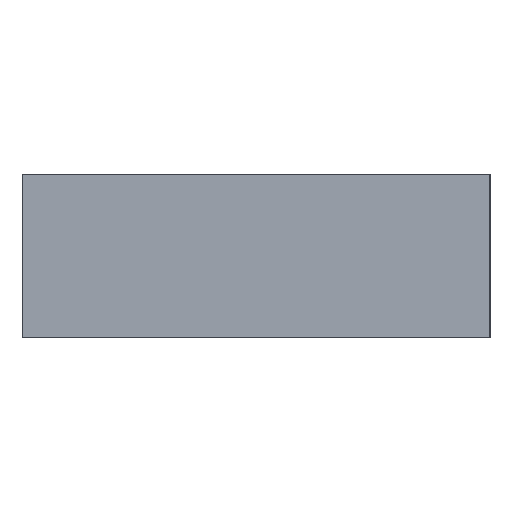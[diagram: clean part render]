
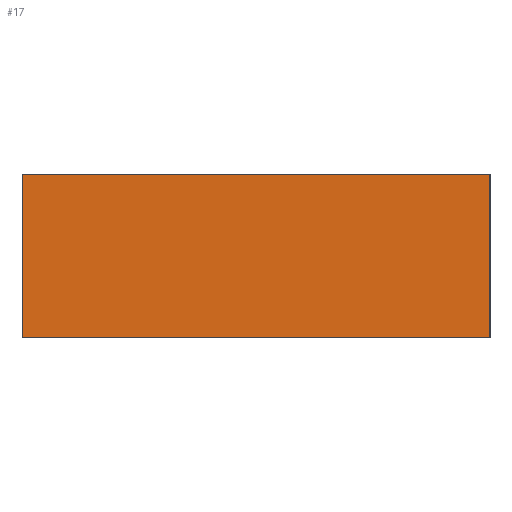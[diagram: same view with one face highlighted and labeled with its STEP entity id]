
A CAD part, left-side view. The second image highlights one B-rep face of the part: STEP entity #17.
In plain terms, the highlighted planar face has unit normal (-1, 0, 0).
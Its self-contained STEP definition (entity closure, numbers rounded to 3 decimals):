
#17 = ADVANCED_FACE('',(#18),#32,.F.);
#18 = FACE_BOUND('',#19,.F.);
#19 = EDGE_LOOP('',(#20,#55,#83,#111));
#20 = ORIENTED_EDGE('',*,*,#21,.F.);
#21 = EDGE_CURVE('',#22,#24,#26,.T.);
#22 = VERTEX_POINT('',#23);
#23 = CARTESIAN_POINT('',(-163.,-3.,606.));
#24 = VERTEX_POINT('',#25);
#25 = CARTESIAN_POINT('',(-163.,-3.,706.));
#26 = SURFACE_CURVE('',#27,(#31,#43),.PCURVE_S1.);
#27 = LINE('',#28,#29);
#28 = CARTESIAN_POINT('',(-163.,-3.,606.));
#29 = VECTOR('',#30,1.);
#30 = DIRECTION('',(0.,0.,1.));
#31 = PCURVE('',#32,#37);
#32 = PLANE('',#33);
#33 = AXIS2_PLACEMENT_3D('',#34,#35,#36);
#34 = CARTESIAN_POINT('',(-163.,-3.,606.));
#35 = DIRECTION('',(1.,0.,0.));
#36 = DIRECTION('',(0.,0.,1.));
#37 = DEFINITIONAL_REPRESENTATION('',(#38),#42);
#38 = LINE('',#39,#40);
#39 = CARTESIAN_POINT('',(0.,0.));
#40 = VECTOR('',#41,1.);
#41 = DIRECTION('',(1.,0.));
#42 = ( GEOMETRIC_REPRESENTATION_CONTEXT(2) 
PARAMETRIC_REPRESENTATION_CONTEXT() REPRESENTATION_CONTEXT('2D SPACE',''
  ) );
#43 = PCURVE('',#44,#49);
#44 = PLANE('',#45);
#45 = AXIS2_PLACEMENT_3D('',#46,#47,#48);
#46 = CARTESIAN_POINT('',(-163.,-3.,606.));
#47 = DIRECTION('',(0.,1.,0.));
#48 = DIRECTION('',(0.,0.,1.));
#49 = DEFINITIONAL_REPRESENTATION('',(#50),#54);
#50 = LINE('',#51,#52);
#51 = CARTESIAN_POINT('',(0.,0.));
#52 = VECTOR('',#53,1.);
#53 = DIRECTION('',(1.,0.));
#54 = ( GEOMETRIC_REPRESENTATION_CONTEXT(2) 
PARAMETRIC_REPRESENTATION_CONTEXT() REPRESENTATION_CONTEXT('2D SPACE',''
  ) );
#55 = ORIENTED_EDGE('',*,*,#56,.T.);
#56 = EDGE_CURVE('',#22,#57,#59,.T.);
#57 = VERTEX_POINT('',#58);
#58 = CARTESIAN_POINT('',(-163.,283.,606.));
#59 = SURFACE_CURVE('',#60,(#64,#71),.PCURVE_S1.);
#60 = LINE('',#61,#62);
#61 = CARTESIAN_POINT('',(-163.,-3.,606.));
#62 = VECTOR('',#63,1.);
#63 = DIRECTION('',(0.,1.,0.));
#64 = PCURVE('',#32,#65);
#65 = DEFINITIONAL_REPRESENTATION('',(#66),#70);
#66 = LINE('',#67,#68);
#67 = CARTESIAN_POINT('',(0.,0.));
#68 = VECTOR('',#69,1.);
#69 = DIRECTION('',(0.,-1.));
#70 = ( GEOMETRIC_REPRESENTATION_CONTEXT(2) 
PARAMETRIC_REPRESENTATION_CONTEXT() REPRESENTATION_CONTEXT('2D SPACE',''
  ) );
#71 = PCURVE('',#72,#77);
#72 = PLANE('',#73);
#73 = AXIS2_PLACEMENT_3D('',#74,#75,#76);
#74 = CARTESIAN_POINT('',(-163.,-3.,606.));
#75 = DIRECTION('',(0.,0.,1.));
#76 = DIRECTION('',(1.,0.,0.));
#77 = DEFINITIONAL_REPRESENTATION('',(#78),#82);
#78 = LINE('',#79,#80);
#79 = CARTESIAN_POINT('',(0.,0.));
#80 = VECTOR('',#81,1.);
#81 = DIRECTION('',(0.,1.));
#82 = ( GEOMETRIC_REPRESENTATION_CONTEXT(2) 
PARAMETRIC_REPRESENTATION_CONTEXT() REPRESENTATION_CONTEXT('2D SPACE',''
  ) );
#83 = ORIENTED_EDGE('',*,*,#84,.T.);
#84 = EDGE_CURVE('',#57,#85,#87,.T.);
#85 = VERTEX_POINT('',#86);
#86 = CARTESIAN_POINT('',(-163.,283.,706.));
#87 = SURFACE_CURVE('',#88,(#92,#99),.PCURVE_S1.);
#88 = LINE('',#89,#90);
#89 = CARTESIAN_POINT('',(-163.,283.,606.));
#90 = VECTOR('',#91,1.);
#91 = DIRECTION('',(0.,0.,1.));
#92 = PCURVE('',#32,#93);
#93 = DEFINITIONAL_REPRESENTATION('',(#94),#98);
#94 = LINE('',#95,#96);
#95 = CARTESIAN_POINT('',(0.,-286.));
#96 = VECTOR('',#97,1.);
#97 = DIRECTION('',(1.,0.));
#98 = ( GEOMETRIC_REPRESENTATION_CONTEXT(2) 
PARAMETRIC_REPRESENTATION_CONTEXT() REPRESENTATION_CONTEXT('2D SPACE',''
  ) );
#99 = PCURVE('',#100,#105);
#100 = PLANE('',#101);
#101 = AXIS2_PLACEMENT_3D('',#102,#103,#104);
#102 = CARTESIAN_POINT('',(-163.,283.,606.));
#103 = DIRECTION('',(0.,1.,0.));
#104 = DIRECTION('',(0.,0.,1.));
#105 = DEFINITIONAL_REPRESENTATION('',(#106),#110);
#106 = LINE('',#107,#108);
#107 = CARTESIAN_POINT('',(0.,0.));
#108 = VECTOR('',#109,1.);
#109 = DIRECTION('',(1.,0.));
#110 = ( GEOMETRIC_REPRESENTATION_CONTEXT(2) 
PARAMETRIC_REPRESENTATION_CONTEXT() REPRESENTATION_CONTEXT('2D SPACE',''
  ) );
#111 = ORIENTED_EDGE('',*,*,#112,.F.);
#112 = EDGE_CURVE('',#24,#85,#113,.T.);
#113 = SURFACE_CURVE('',#114,(#118,#125),.PCURVE_S1.);
#114 = LINE('',#115,#116);
#115 = CARTESIAN_POINT('',(-163.,-3.,706.));
#116 = VECTOR('',#117,1.);
#117 = DIRECTION('',(0.,1.,0.));
#118 = PCURVE('',#32,#119);
#119 = DEFINITIONAL_REPRESENTATION('',(#120),#124);
#120 = LINE('',#121,#122);
#121 = CARTESIAN_POINT('',(100.,0.));
#122 = VECTOR('',#123,1.);
#123 = DIRECTION('',(0.,-1.));
#124 = ( GEOMETRIC_REPRESENTATION_CONTEXT(2) 
PARAMETRIC_REPRESENTATION_CONTEXT() REPRESENTATION_CONTEXT('2D SPACE',''
  ) );
#125 = PCURVE('',#126,#131);
#126 = PLANE('',#127);
#127 = AXIS2_PLACEMENT_3D('',#128,#129,#130);
#128 = CARTESIAN_POINT('',(-163.,-3.,706.));
#129 = DIRECTION('',(0.,0.,1.));
#130 = DIRECTION('',(1.,0.,0.));
#131 = DEFINITIONAL_REPRESENTATION('',(#132),#136);
#132 = LINE('',#133,#134);
#133 = CARTESIAN_POINT('',(0.,0.));
#134 = VECTOR('',#135,1.);
#135 = DIRECTION('',(0.,1.));
#136 = ( GEOMETRIC_REPRESENTATION_CONTEXT(2) 
PARAMETRIC_REPRESENTATION_CONTEXT() REPRESENTATION_CONTEXT('2D SPACE',''
  ) );
